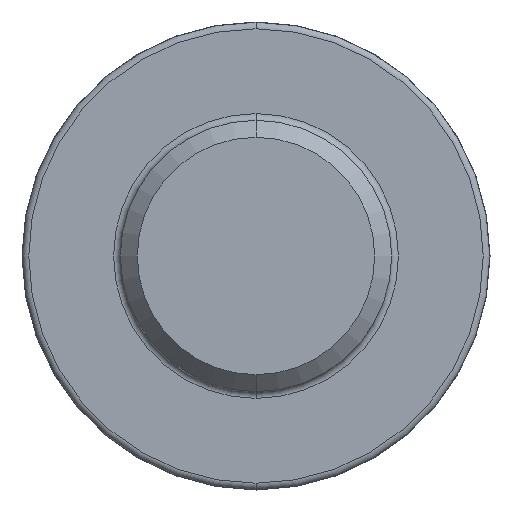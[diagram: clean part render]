
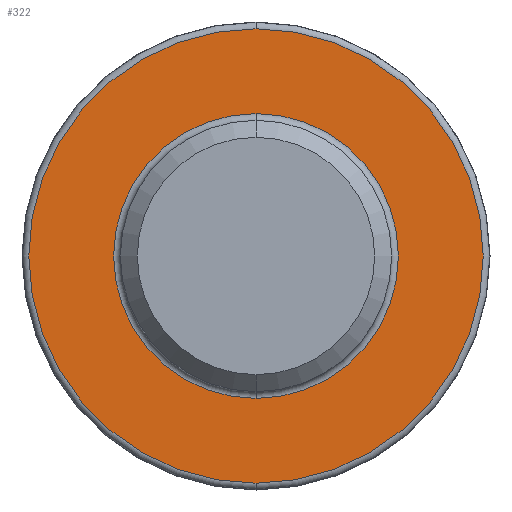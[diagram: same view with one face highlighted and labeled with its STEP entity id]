
A CAD part, front view. The second image highlights one B-rep face of the part: STEP entity #322.
In plain terms, the highlighted planar face has unit normal (0, -1, 0).
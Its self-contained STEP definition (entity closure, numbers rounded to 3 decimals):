
#10 = ORIENTED_EDGE ( 'NONE', *, *, #638, .T. ) ;
#33 = CIRCLE ( 'NONE', #445, 4.2 ) ;
#39 = DIRECTION ( 'NONE',  ( 0., 1., 0. ) ) ;
#88 = CARTESIAN_POINT ( 'NONE',  ( 0., -4.2, -4.2 ) ) ;
#141 = EDGE_CURVE ( 'NONE', #710, #220, #33, .T. ) ;
#220 = VERTEX_POINT ( 'NONE', #88 ) ;
#229 = DIRECTION ( 'NONE',  ( 0., 1., 0. ) ) ;
#236 = CIRCLE ( 'NONE', #757, 6.7 ) ;
#247 = CARTESIAN_POINT ( 'NONE',  ( 4., -4.2, 0. ) ) ;
#286 = CARTESIAN_POINT ( 'NONE',  ( 0., -4.2, 0. ) ) ;
#298 = PLANE ( 'NONE',  #388 ) ;
#301 = CIRCLE ( 'NONE', #691, 6.7 ) ;
#307 = DIRECTION ( 'NONE',  ( 0., 0., 1. ) ) ;
#322 = ADVANCED_FACE ( 'NONE', ( #577, #571 ), #298, .F. ) ;
#337 = DIRECTION ( 'NONE',  ( 0., 0., 1. ) ) ;
#350 = DIRECTION ( 'NONE',  ( 0., 0., 1. ) ) ;
#366 = CARTESIAN_POINT ( 'NONE',  ( 0., -4.2, 0. ) ) ;
#388 = AXIS2_PLACEMENT_3D ( 'NONE', #247, #39, #307 ) ;
#398 = ORIENTED_EDGE ( 'NONE', *, *, #618, .T. ) ;
#415 = VERTEX_POINT ( 'NONE', #696 ) ;
#430 = DIRECTION ( 'NONE',  ( 0., 0., 1. ) ) ;
#445 = AXIS2_PLACEMENT_3D ( 'NONE', #366, #229, #430 ) ;
#450 = ORIENTED_EDGE ( 'NONE', *, *, #538, .T. ) ;
#451 = CARTESIAN_POINT ( 'NONE',  ( 0., -4.2, 4.2 ) ) ;
#472 = DIRECTION ( 'NONE',  ( 0., -1., 0. ) ) ;
#485 = EDGE_LOOP ( 'NONE', ( #598, #398 ) ) ;
#538 = EDGE_CURVE ( 'NONE', #415, #605, #236, .T. ) ;
#542 = DIRECTION ( 'NONE',  ( 0., -1., 0. ) ) ;
#571 = FACE_OUTER_BOUND ( 'NONE', #731, .T. ) ;
#577 = FACE_BOUND ( 'NONE', #485, .T. ) ;
#598 = ORIENTED_EDGE ( 'NONE', *, *, #141, .T. ) ;
#605 = VERTEX_POINT ( 'NONE', #809 ) ;
#618 = EDGE_CURVE ( 'NONE', #220, #710, #622, .T. ) ;
#622 = CIRCLE ( 'NONE', #788, 4.2 ) ;
#638 = EDGE_CURVE ( 'NONE', #605, #415, #301, .T. ) ;
#682 = DIRECTION ( 'NONE',  ( 0., 1., 0. ) ) ;
#691 = AXIS2_PLACEMENT_3D ( 'NONE', #820, #542, #817 ) ;
#696 = CARTESIAN_POINT ( 'NONE',  ( 0., -4.2, 6.7 ) ) ;
#710 = VERTEX_POINT ( 'NONE', #451 ) ;
#731 = EDGE_LOOP ( 'NONE', ( #450, #10 ) ) ;
#757 = AXIS2_PLACEMENT_3D ( 'NONE', #782, #472, #337 ) ;
#782 = CARTESIAN_POINT ( 'NONE',  ( 0., -4.2, 0. ) ) ;
#788 = AXIS2_PLACEMENT_3D ( 'NONE', #286, #682, #350 ) ;
#809 = CARTESIAN_POINT ( 'NONE',  ( 0., -4.2, -6.7 ) ) ;
#817 = DIRECTION ( 'NONE',  ( 0., 0., 1. ) ) ;
#820 = CARTESIAN_POINT ( 'NONE',  ( 0., -4.2, 0. ) ) ;
